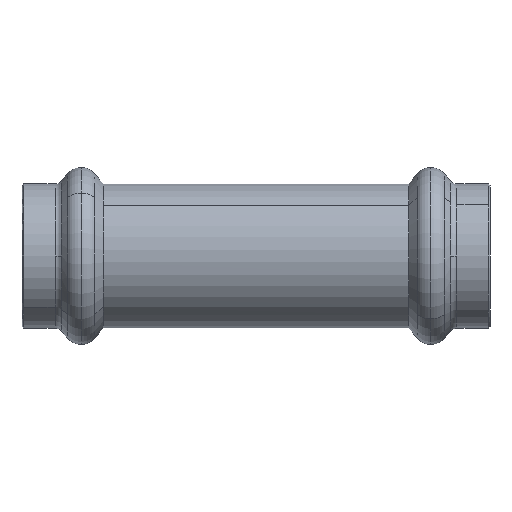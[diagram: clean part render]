
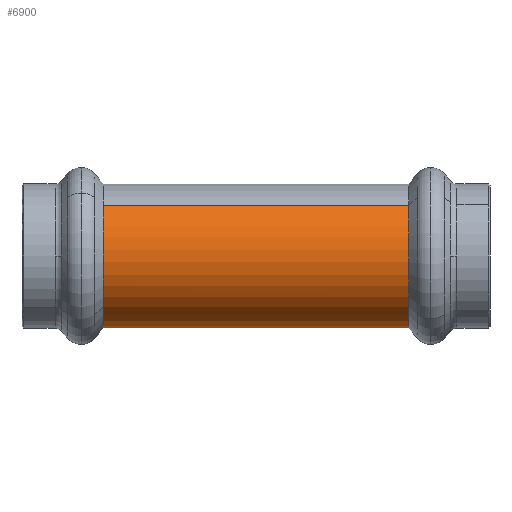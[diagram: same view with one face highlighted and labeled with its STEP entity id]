
A CAD part, left-side view. The second image highlights one B-rep face of the part: STEP entity #6900.
In plain terms, the highlighted cylindrical face has radius 12.65 mm (diameter 25.3 mm), a partial arc.
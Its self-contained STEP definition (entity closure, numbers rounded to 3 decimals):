
#460=CARTESIAN_POINT('',(22.069,49.431,
-8.952));
#470=VERTEX_POINT('',#460);
#730=CARTESIAN_POINT('',(31.006,49.431,0.
));
#740=DIRECTION('',(0.,1.,0.));
#750=DIRECTION('',(-0.708,0.,
0.707));
#760=AXIS2_PLACEMENT_3D('',#730,#740,#750);
#770=CIRCLE('',#760,12.65);
#780=CARTESIAN_POINT('',(22.069,49.431,
8.952));
#790=VERTEX_POINT('',#780);
#820=CARTESIAN_POINT('',(22.054,49.431,
8.938));
#830=VERTEX_POINT('',#820);
#840=EDGE_CURVE('',#830,#790,#770,.T.);
#860=EDGE_CURVE('',#470,#830,#770,.T.);
#6540=CARTESIAN_POINT('',(31.006,0.272,0.));
#6550=DIRECTION('',(0.,1.,0.));
#6560=DIRECTION('',(-0.707,0.,
0.708));
#6570=AXIS2_PLACEMENT_3D('',#6540,#6550,#6560);
#6580=CYLINDRICAL_SURFACE('',#6570,12.65);
#6590=ORIENTED_EDGE('',*,*,#840,.F.);
#6600=CARTESIAN_POINT('',(22.069,0.272,
8.952));
#6610=DIRECTION('',(0.,1.,0.));
#6620=VECTOR('',#6610,1.);
#6630=LINE('',#6600,#6620);
#6640=CARTESIAN_POINT('',(22.069,-4.147,
8.952));
#6650=VERTEX_POINT('',#6640);
#6660=EDGE_CURVE('',#6650,#790,#6630,.T.);
#6670=ORIENTED_EDGE('',*,*,#6660,.T.);
#6680=CARTESIAN_POINT('',(31.006,-4.147,
0.));
#6690=DIRECTION('',(0.,-1.,0.));
#6700=DIRECTION('',(0.708,0.,
0.707));
#6710=AXIS2_PLACEMENT_3D('',#6680,#6690,#6700);
#6720=CIRCLE('',#6710,12.65);
#6730=CARTESIAN_POINT('',(39.944,-4.147,
-8.952));
#6740=VERTEX_POINT('',#6730);
#6750=EDGE_CURVE('',#6650,#6740,#6720,.T.);
#6760=ORIENTED_EDGE('',*,*,#6750,.F.);
#6770=CARTESIAN_POINT('',(39.944,0.272,
-8.952));
#6780=DIRECTION('',(0.,1.,0.));
#6790=VECTOR('',#6780,1.);
#6800=LINE('',#6770,#6790);
#6810=CARTESIAN_POINT('',(39.944,49.431,
-8.952));
#6820=VERTEX_POINT('',#6810);
#6830=EDGE_CURVE('',#6740,#6820,#6800,.T.);
#6840=ORIENTED_EDGE('',*,*,#6830,.F.);
#6850=EDGE_CURVE('',#6820,#470,#770,.T.);
#6860=ORIENTED_EDGE('',*,*,#6850,.F.);
#6870=ORIENTED_EDGE('',*,*,#860,.F.);
#6880=EDGE_LOOP('',(#6870,#6860,#6840,#6760,#6670,#6590));
#6890=FACE_OUTER_BOUND('',#6880,.T.);
#6900=ADVANCED_FACE('',(#6890),#6580,.T.);
